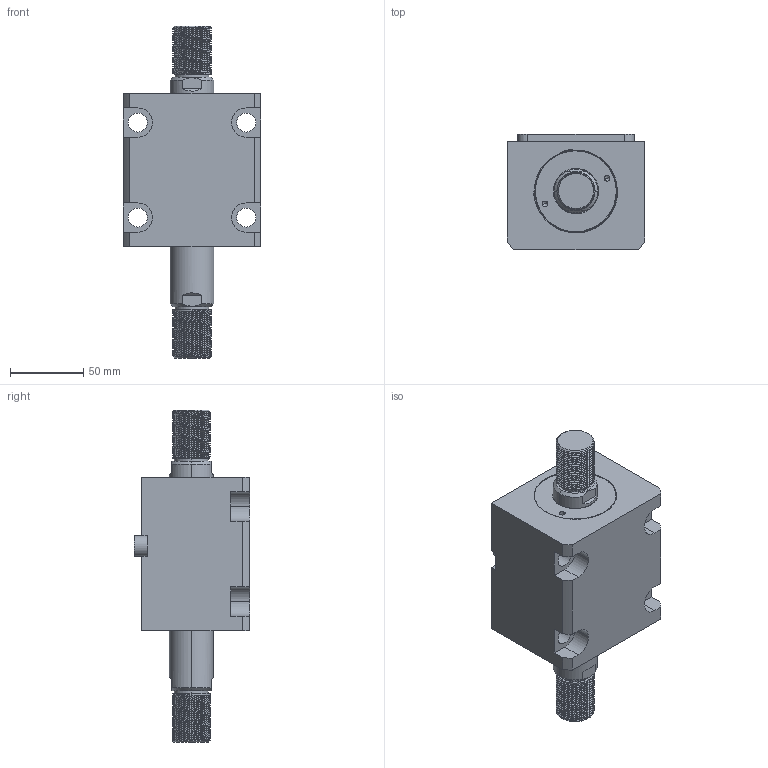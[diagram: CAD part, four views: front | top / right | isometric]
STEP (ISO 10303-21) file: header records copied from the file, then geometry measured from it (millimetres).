
FILE_DESCRIPTION (( 'STEP AP203' ), '1' );
FILE_NAME ('CHTB-LWM50-30W.STEP', '2018-05-22T08:26:17', ( '' ), ( '' ), 'SwSTEP 2.0', 'SolidWorks 2015', '' );
FILE_SCHEMA (( 'CONFIG_CONTROL_DESIGN' ));
Length unit declared in the file: millimetre
Products named in the file (4): 掛极LWM50-30W; 活塞杆LWM50-30W; CHTB-LWM50-30W; CHTM-SDMA50QG
Assembly tree (3 placements, depth 2):
  CHTB-LWM50-30W
    掛极LWM50-30W
    CHTM-SDMA50QG
    活塞杆LWM50-30W
Bounding box: 94 x 79 x 227 mm (x, y, z)
Volume: 710631.2 mm3; surface area: 120109.4 mm2
Topology: 3 solids, 3 shells, 302 faces, 837 edges, 557 vertices
Faces by surface type: cylinder 188, plane 62, cone 18, bspline 18, torus 16
Entity records: 19248 total; most frequent: CARTESIAN_POINT 11864, ORIENTED_EDGE 1666, DIRECTION 1265, EDGE_CURVE 833, VERTEX_POINT 557, AXIS2_PLACEMENT_3D 483, EDGE_LOOP 338, ADVANCED_FACE 302
